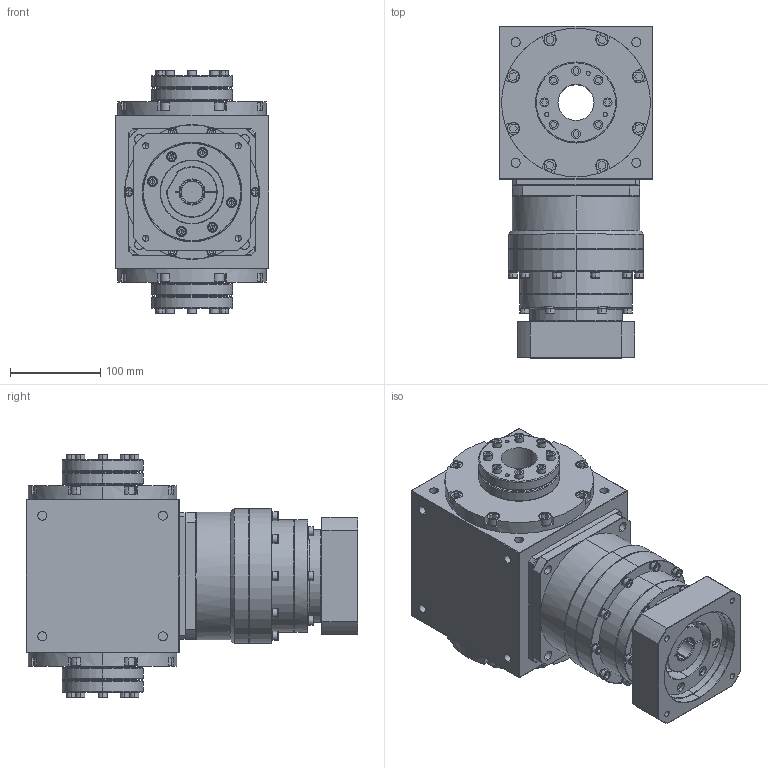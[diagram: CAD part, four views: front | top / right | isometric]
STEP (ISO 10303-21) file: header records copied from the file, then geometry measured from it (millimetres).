
FILE_DESCRIPTION (( 'STEP AP203' ), '1' );
FILE_NAME ('AT170-FC-L2 24-110-145-M8.STEP', '2024-12-25T09:22:45', ( '' ), ( '' ), 'SwSTEP 2.0', 'SolidWorks 2021', '' );
FILE_SCHEMA (( 'CONFIG_CONTROL_DESIGN' ));
Length unit declared in the file: millimetre
Products named in the file (3): KS142L2-110-24-62-M8-145俋倛芞; AT170-FC-L1 35-114.3-200-M12; AT170-FC-L2 24-110-145-M8
Assembly tree (2 placements, depth 2):
  AT170-FC-L2 24-110-145-M8
    AT170-FC-L1 35-114.3-200-M12
    KS142L2-110-24-62-M8-145俋倛芞
Bounding box: 170 x 368.5 x 270 mm (x, y, z)
Volume: 8271535.2 mm3; surface area: 571516.1 mm2
Topology: 52 solids, 52 shells, 1799 faces, 4358 edges, 2733 vertices
Faces by surface type: plane 922, cylinder 595, cone 212, torus 70
Entity records: 53081 total; most frequent: CARTESIAN_POINT 10377, DIRECTION 9250, ORIENTED_EDGE 8544, EDGE_CURVE 4272, AXIS2_PLACEMENT_3D 3484, VERTEX_POINT 2731, VECTOR 2282, LINE 2282
